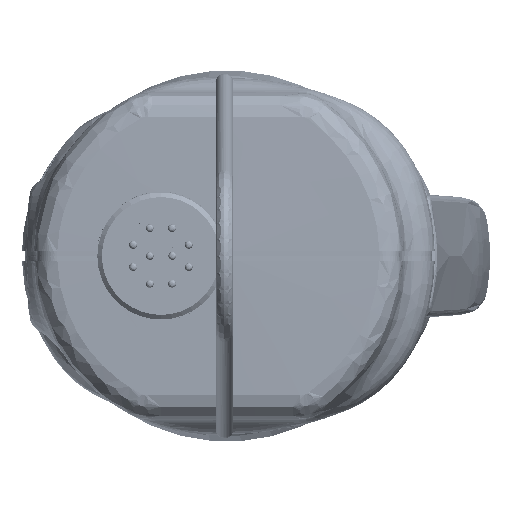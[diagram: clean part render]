
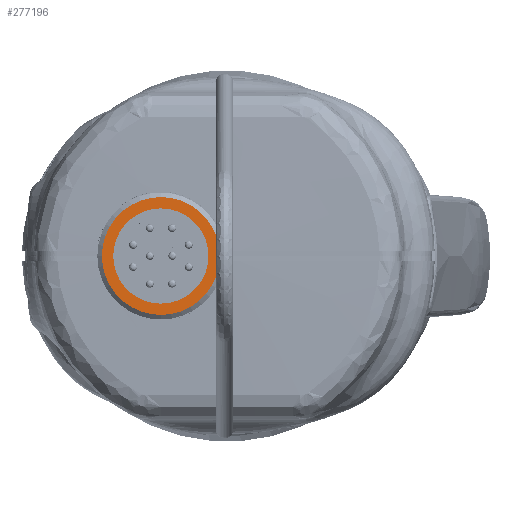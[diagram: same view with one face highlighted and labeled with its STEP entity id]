
A CAD part, front view. The second image highlights one B-rep face of the part: STEP entity #277196.
In plain terms, the highlighted planar face has unit normal (0, -1, 0).
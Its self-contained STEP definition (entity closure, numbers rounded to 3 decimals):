
#6903 = EDGE_LOOP ( 'NONE', ( #135542 ) ) ;
#8329 = CARTESIAN_POINT ( 'NONE',  ( -37.56, -190.321, 6. ) ) ;
#8672 = CARTESIAN_POINT ( 'NONE',  ( -37.56, -190.321, -6. ) ) ;
#22168 = DIRECTION ( 'NONE',  ( 0., 0., 1. ) ) ;
#23892 = DIRECTION ( 'NONE',  ( 0., 1., 0. ) ) ;
#26201 = CIRCLE ( 'NONE', #40093, 7.425 ) ;
#29883 = EDGE_CURVE ( 'NONE', #189386, #189386, #147847, .T. ) ;
#40093 = AXIS2_PLACEMENT_3D ( 'NONE', #202126, #23892, #66016 ) ;
#43911 = DIRECTION ( 'NONE',  ( 0., 1., 0. ) ) ;
#43998 = VERTEX_POINT ( 'NONE', #204772 ) ;
#53612 = DIRECTION ( 'NONE',  ( 0., 0., 1. ) ) ;
#66016 = DIRECTION ( 'NONE',  ( 0., 0., 1. ) ) ;
#97075 = DIRECTION ( 'NONE',  ( 0., 1., 0. ) ) ;
#101391 = FACE_OUTER_BOUND ( 'NONE', #6903, .T. ) ;
#120365 = FACE_BOUND ( 'NONE', #248566, .T. ) ;
#130905 = CARTESIAN_POINT ( 'NONE',  ( -37.56, -190.321, 0. ) ) ;
#135542 = ORIENTED_EDGE ( 'NONE', *, *, #286043, .F. ) ;
#147847 = CIRCLE ( 'NONE', #189445, 6. ) ;
#177343 = AXIS2_PLACEMENT_3D ( 'NONE', #8672, #97075, #53612 ) ;
#189386 = VERTEX_POINT ( 'NONE', #8329 ) ;
#189445 = AXIS2_PLACEMENT_3D ( 'NONE', #130905, #43911, #22168 ) ;
#202126 = CARTESIAN_POINT ( 'NONE',  ( -37.56, -190.321, 0. ) ) ;
#204772 = CARTESIAN_POINT ( 'NONE',  ( -37.56, -190.321, 7.425 ) ) ;
#207166 = PLANE ( 'NONE',  #177343 ) ;
#248566 = EDGE_LOOP ( 'NONE', ( #263329 ) ) ;
#263329 = ORIENTED_EDGE ( 'NONE', *, *, #29883, .T. ) ;
#277196 = ADVANCED_FACE ( 'NONE', ( #101391, #120365 ), #207166, .F. ) ;
#286043 = EDGE_CURVE ( 'NONE', #43998, #43998, #26201, .T. ) ;
